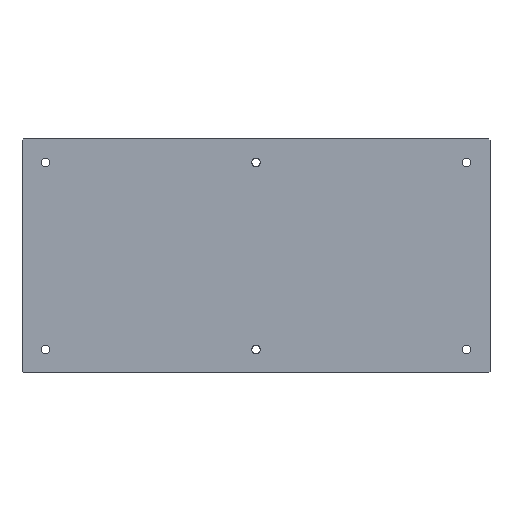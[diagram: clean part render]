
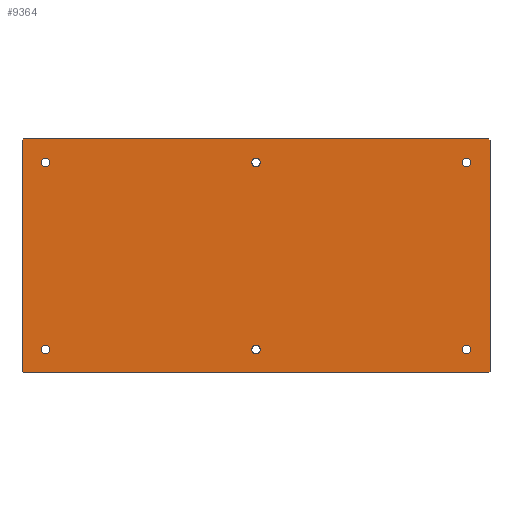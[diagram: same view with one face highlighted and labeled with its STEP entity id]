
A CAD part, front view. The second image highlights one B-rep face of the part: STEP entity #9364.
In plain terms, the highlighted planar face has unit normal (0, -1, 0).
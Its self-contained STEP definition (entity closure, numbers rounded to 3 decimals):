
#1=CARTESIAN_POINT('',(450.,-30.,200.));
#2=DIRECTION('',(0.,1.,0.));
#3=DIRECTION('',(1.,0.,0.));
#4=AXIS2_PLACEMENT_3D('',#1,#2,#3);
#6=CARTESIAN_POINT('',(450.,-30.,200.));
#7=DIRECTION('',(0.,1.,0.));
#8=DIRECTION('',(-1.,0.,0.));
#9=AXIS2_PLACEMENT_3D('',#6,#7,#8);
#11=CARTESIAN_POINT('',(0.,-30.,200.));
#12=DIRECTION('',(0.,1.,0.));
#13=DIRECTION('',(1.,0.,0.));
#14=AXIS2_PLACEMENT_3D('',#11,#12,#13);
#16=CARTESIAN_POINT('',(0.,-30.,200.));
#17=DIRECTION('',(0.,1.,0.));
#18=DIRECTION('',(-1.,0.,0.));
#19=AXIS2_PLACEMENT_3D('',#16,#17,#18);
#21=CARTESIAN_POINT('',(-450.,-30.,200.));
#22=DIRECTION('',(0.,1.,0.));
#23=DIRECTION('',(1.,0.,0.));
#24=AXIS2_PLACEMENT_3D('',#21,#22,#23);
#26=CARTESIAN_POINT('',(-450.,-30.,200.));
#27=DIRECTION('',(0.,1.,0.));
#28=DIRECTION('',(-1.,0.,0.));
#29=AXIS2_PLACEMENT_3D('',#26,#27,#28);
#31=CARTESIAN_POINT('',(450.,-30.,-200.));
#32=DIRECTION('',(0.,-1.,0.));
#33=DIRECTION('',(1.,0.,0.));
#34=AXIS2_PLACEMENT_3D('',#31,#32,#33);
#36=CARTESIAN_POINT('',(450.,-30.,-200.));
#37=DIRECTION('',(0.,-1.,0.));
#38=DIRECTION('',(-1.,0.,0.));
#39=AXIS2_PLACEMENT_3D('',#36,#37,#38);
#41=CARTESIAN_POINT('',(0.,-30.,-200.));
#42=DIRECTION('',(0.,-1.,0.));
#43=DIRECTION('',(1.,0.,0.));
#44=AXIS2_PLACEMENT_3D('',#41,#42,#43);
#46=CARTESIAN_POINT('',(0.,-30.,-200.));
#47=DIRECTION('',(0.,-1.,0.));
#48=DIRECTION('',(-1.,0.,0.));
#49=AXIS2_PLACEMENT_3D('',#46,#47,#48);
#51=CARTESIAN_POINT('',(-450.,-30.,-200.));
#52=DIRECTION('',(0.,-1.,0.));
#53=DIRECTION('',(1.,0.,0.));
#54=AXIS2_PLACEMENT_3D('',#51,#52,#53);
#56=CARTESIAN_POINT('',(-450.,-30.,-200.));
#57=DIRECTION('',(0.,-1.,0.));
#58=DIRECTION('',(-1.,0.,0.));
#59=AXIS2_PLACEMENT_3D('',#56,#57,#58);
#61=DIRECTION('',(-0.707,0.,0.707));
#62=VECTOR('',#61,4.243);
#63=CARTESIAN_POINT('',(500.,-30.,247.));
#64=LINE('',#63,#62);
#65=DIRECTION('',(0.,0.,-1.));
#66=VECTOR('',#65,494.);
#67=CARTESIAN_POINT('',(500.,-30.,247.));
#68=LINE('',#67,#66);
#69=DIRECTION('',(0.707,0.,0.707));
#70=VECTOR('',#69,4.243);
#71=CARTESIAN_POINT('',(497.,-30.,-250.));
#72=LINE('',#71,#70);
#73=DIRECTION('',(-1.,0.,0.));
#74=VECTOR('',#73,994.);
#75=CARTESIAN_POINT('',(497.,-30.,-250.));
#76=LINE('',#75,#74);
#77=DIRECTION('',(0.707,0.,-0.707));
#78=VECTOR('',#77,4.243);
#79=CARTESIAN_POINT('',(-500.,-30.,-247.));
#80=LINE('',#79,#78);
#81=DIRECTION('',(0.,0.,1.));
#82=VECTOR('',#81,494.);
#83=CARTESIAN_POINT('',(-500.,-30.,-247.));
#84=LINE('',#83,#82);
#85=DIRECTION('',(-0.707,0.,-0.707));
#86=VECTOR('',#85,4.243);
#87=CARTESIAN_POINT('',(-497.,-30.,250.));
#88=LINE('',#87,#86);
#89=DIRECTION('',(1.,0.,0.));
#90=VECTOR('',#89,994.);
#91=CARTESIAN_POINT('',(-497.,-30.,250.));
#92=LINE('',#91,#90);
#9041=CARTESIAN_POINT('',(459.,-30.,200.));
#9042=CARTESIAN_POINT('',(441.,-30.,200.));
#9043=VERTEX_POINT('',#9041);
#9044=VERTEX_POINT('',#9042);
#9073=CARTESIAN_POINT('',(9.,-30.,200.));
#9074=CARTESIAN_POINT('',(-9.,-30.,200.));
#9075=VERTEX_POINT('',#9073);
#9076=VERTEX_POINT('',#9074);
#9105=CARTESIAN_POINT('',(-441.,-30.,200.));
#9106=CARTESIAN_POINT('',(-459.,-30.,200.));
#9107=VERTEX_POINT('',#9105);
#9108=VERTEX_POINT('',#9106);
#9153=CARTESIAN_POINT('',(459.,-30.,-200.));
#9154=VERTEX_POINT('',#9153);
#9157=CARTESIAN_POINT('',(441.,-30.,-200.));
#9158=VERTEX_POINT('',#9157);
#9169=CARTESIAN_POINT('',(9.,-30.,-200.));
#9170=VERTEX_POINT('',#9169);
#9173=CARTESIAN_POINT('',(-9.,-30.,-200.));
#9174=VERTEX_POINT('',#9173);
#9185=CARTESIAN_POINT('',(-441.,-30.,-200.));
#9186=VERTEX_POINT('',#9185);
#9189=CARTESIAN_POINT('',(-459.,-30.,-200.));
#9190=VERTEX_POINT('',#9189);
#9273=CARTESIAN_POINT('',(500.,-30.,247.));
#9274=CARTESIAN_POINT('',(497.,-30.,250.));
#9275=VERTEX_POINT('',#9273);
#9276=VERTEX_POINT('',#9274);
#9281=CARTESIAN_POINT('',(-497.,-30.,250.));
#9282=CARTESIAN_POINT('',(-500.,-30.,247.));
#9283=VERTEX_POINT('',#9281);
#9284=VERTEX_POINT('',#9282);
#9289=CARTESIAN_POINT('',(-500.,-30.,-247.));
#9290=CARTESIAN_POINT('',(-497.,-30.,-250.));
#9291=VERTEX_POINT('',#9289);
#9292=VERTEX_POINT('',#9290);
#9297=CARTESIAN_POINT('',(497.,-30.,-250.));
#9298=CARTESIAN_POINT('',(500.,-30.,-247.));
#9299=VERTEX_POINT('',#9297);
#9300=VERTEX_POINT('',#9298);
#9305=CARTESIAN_POINT('',(0.,-30.,0.));
#9306=DIRECTION('',(0.,1.,0.));
#9307=DIRECTION('',(1.,0.,0.));
#9308=AXIS2_PLACEMENT_3D('',#9305,#9306,#9307);
#9309=PLANE('',#9308);
#9311=ORIENTED_EDGE('',*,*,#9310,.F.);
#9313=ORIENTED_EDGE('',*,*,#9312,.T.);
#9315=ORIENTED_EDGE('',*,*,#9314,.F.);
#9317=ORIENTED_EDGE('',*,*,#9316,.T.);
#9319=ORIENTED_EDGE('',*,*,#9318,.F.);
#9321=ORIENTED_EDGE('',*,*,#9320,.T.);
#9323=ORIENTED_EDGE('',*,*,#9322,.F.);
#9325=ORIENTED_EDGE('',*,*,#9324,.T.);
#9326=EDGE_LOOP('',(#9311,#9313,#9315,#9317,#9319,#9321,#9323,#9325));
#9327=FACE_OUTER_BOUND('',#9326,.F.);
#9329=ORIENTED_EDGE('',*,*,#9328,.F.);
#9331=ORIENTED_EDGE('',*,*,#9330,.F.);
#9332=EDGE_LOOP('',(#9329,#9331));
#9333=FACE_BOUND('',#9332,.F.);
#9335=ORIENTED_EDGE('',*,*,#9334,.F.);
#9337=ORIENTED_EDGE('',*,*,#9336,.F.);
#9338=EDGE_LOOP('',(#9335,#9337));
#9339=FACE_BOUND('',#9338,.F.);
#9341=ORIENTED_EDGE('',*,*,#9340,.T.);
#9343=ORIENTED_EDGE('',*,*,#9342,.T.);
#9344=EDGE_LOOP('',(#9341,#9343));
#9345=FACE_BOUND('',#9344,.F.);
#9347=ORIENTED_EDGE('',*,*,#9346,.T.);
#9349=ORIENTED_EDGE('',*,*,#9348,.T.);
#9350=EDGE_LOOP('',(#9347,#9349));
#9351=FACE_BOUND('',#9350,.F.);
#9353=ORIENTED_EDGE('',*,*,#9352,.T.);
#9355=ORIENTED_EDGE('',*,*,#9354,.T.);
#9356=EDGE_LOOP('',(#9353,#9355));
#9357=FACE_BOUND('',#9356,.F.);
#9359=ORIENTED_EDGE('',*,*,#9358,.F.);
#9361=ORIENTED_EDGE('',*,*,#9360,.F.);
#9362=EDGE_LOOP('',(#9359,#9361));
#9363=FACE_BOUND('',#9362,.F.);
#9364=ADVANCED_FACE('',(#9327,#9333,#9339,#9345,#9351,#9357,#9363),#9309,.F.);
#5=CIRCLE('',#4,9.);
#10=CIRCLE('',#9,9.);
#15=CIRCLE('',#14,9.);
#20=CIRCLE('',#19,9.);
#25=CIRCLE('',#24,9.);
#30=CIRCLE('',#29,9.);
#35=CIRCLE('',#34,9.);
#40=CIRCLE('',#39,9.);
#45=CIRCLE('',#44,9.);
#50=CIRCLE('',#49,9.);
#55=CIRCLE('',#54,9.);
#60=CIRCLE('',#59,9.);
#9310=EDGE_CURVE('',#9275,#9276,#64,.T.);
#9312=EDGE_CURVE('',#9275,#9300,#68,.T.);
#9314=EDGE_CURVE('',#9299,#9300,#72,.T.);
#9316=EDGE_CURVE('',#9299,#9292,#76,.T.);
#9318=EDGE_CURVE('',#9291,#9292,#80,.T.);
#9320=EDGE_CURVE('',#9291,#9284,#84,.T.);
#9322=EDGE_CURVE('',#9283,#9284,#88,.T.);
#9324=EDGE_CURVE('',#9283,#9276,#92,.T.);
#9328=EDGE_CURVE('',#9075,#9076,#15,.T.);
#9330=EDGE_CURVE('',#9076,#9075,#20,.T.);
#9334=EDGE_CURVE('',#9107,#9108,#25,.T.);
#9336=EDGE_CURVE('',#9108,#9107,#30,.T.);
#9340=EDGE_CURVE('',#9154,#9158,#35,.T.);
#9342=EDGE_CURVE('',#9158,#9154,#40,.T.);
#9346=EDGE_CURVE('',#9170,#9174,#45,.T.);
#9348=EDGE_CURVE('',#9174,#9170,#50,.T.);
#9352=EDGE_CURVE('',#9186,#9190,#55,.T.);
#9354=EDGE_CURVE('',#9190,#9186,#60,.T.);
#9358=EDGE_CURVE('',#9043,#9044,#5,.T.);
#9360=EDGE_CURVE('',#9044,#9043,#10,.T.);
